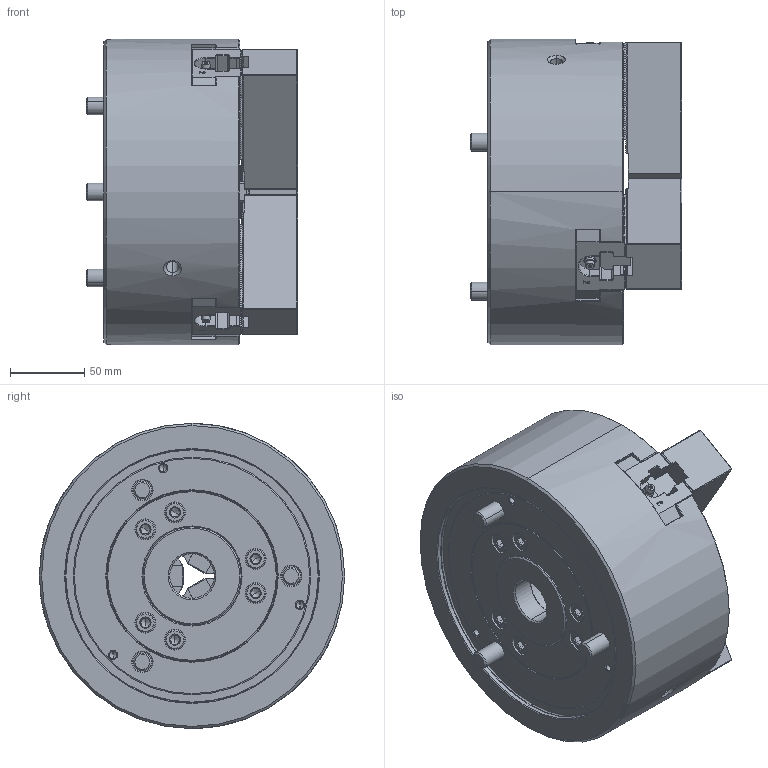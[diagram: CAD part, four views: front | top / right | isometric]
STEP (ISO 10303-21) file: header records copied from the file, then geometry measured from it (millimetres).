
FILE_DESCRIPTION (( 'STEP AP203' ), '1' );
FILE_NAME ('B-208M_OC.STEP', '2025-09-05T09:31:33', ( '' ), ( '' ), 'SwSTEP 2.0', 'SolidWorks 2022', '' );
FILE_SCHEMA (( 'CONFIG_CONTROL_DESIGN' ));
Length unit declared in the file: millimetre
Products named in the file (9): Copy of DEV-B-208M-Bアナツキボタン M5x10^DEV-B-208M-クミタテ; Copy of DEV-B-208M-Bアナツキ M12x30^DEV-B-208M-クミタテ; Copy of DEV-B-208M-カバー^DEV-B-208M-クミタテ; Part1^DEV-B-208M-クミタテ; B-208M_OC; Copy of DEV-B-208M-Bアナツキ M12x90^DEV-B-208M-クミタテ; Copy of DEV-B-208M-ソフトジョー^DEV-B-208M-クミタテ; Copy of DEV-B-208M-ドローナット^DEV-B-208M-クミタテ_ねじ切りなし; Copy of DEV-B-208M-Tナット^DEV-B-208M-クミタテ
Assembly tree (21 placements, depth 2):
  B-208M_OC
    Copy of DEV-B-208M-Bアナツキボタン M5x10^DEV-B-208M-クミタテ  x3
    Copy of DEV-B-208M-Bアナツキ M12x30^DEV-B-208M-クミタテ  x6
    Copy of DEV-B-208M-Bアナツキ M12x90^DEV-B-208M-クミタテ  x3
    Copy of DEV-B-208M-ソフトジョー^DEV-B-208M-クミタテ  x3
    Copy of DEV-B-208M-Tナット^DEV-B-208M-クミタテ  x3
    Copy of DEV-B-208M-ドローナット^DEV-B-208M-クミタテ_ねじ切りなし
    Copy of DEV-B-208M-カバー^DEV-B-208M-クミタテ
    Part1^DEV-B-208M-クミタテ
Bounding box: 142.2 x 205 x 205 mm (x, y, z)
Volume: 3007186.7 mm3; surface area: 328288.3 mm2
Topology: 21 solids, 33 shells, 4048 faces, 11321 edges, 7388 vertices
Faces by surface type: plane 2492, cylinder 978, cone 348, bspline 156, torus 66, sphere 8
Entity records: 91806 total; most frequent: CARTESIAN_POINT 24413, ORIENTED_EDGE 14726, DIRECTION 12377, EDGE_CURVE 7363, LINE 5343, VECTOR 5343, VERTEX_POINT 4817, AXIS2_PLACEMENT_3D 3517
